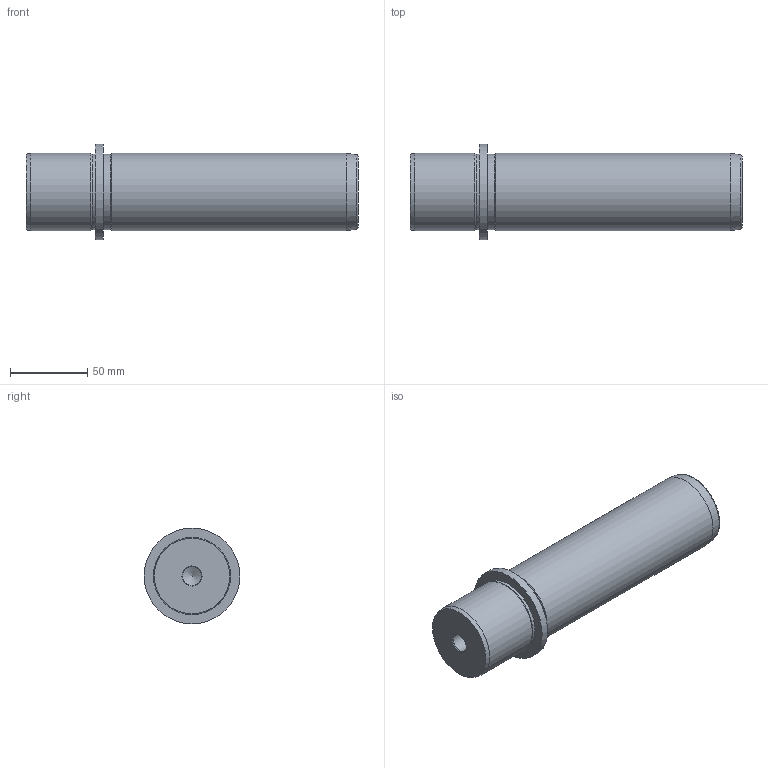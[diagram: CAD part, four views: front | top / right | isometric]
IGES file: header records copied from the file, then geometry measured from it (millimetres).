
Global section: file name: CE50170.ipt; native system: Autodesk Inventor 2021; preprocessor: unknown; author: SM; date: 20211217.134413; units: millimetre
Bounding box: 215 x 62 x 62 mm (x, y, z)
Volume: 423008.8 mm3; surface area: 40866.7 mm2
Topology: 1 solids, 1 shells, 17 faces, 35 edges, 22 vertices
Faces by surface type: cylinder 5, cone 4, plane 4, revolution 3, bspline 1
Full cylindrical faces by diameter (mm): 49 x2, 50 x2, 62 x1
